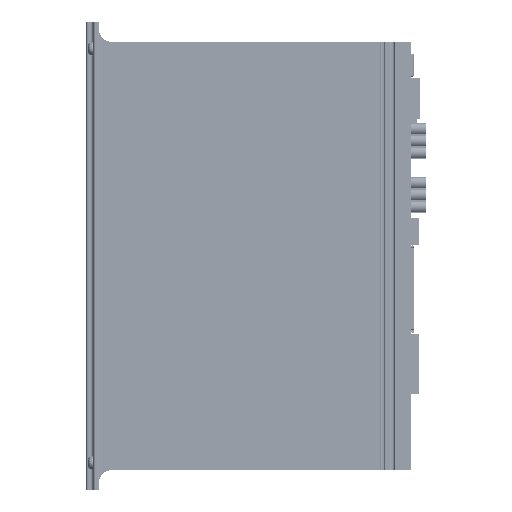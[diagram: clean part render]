
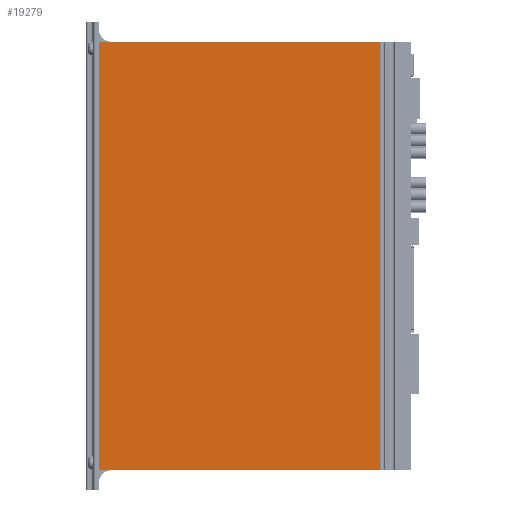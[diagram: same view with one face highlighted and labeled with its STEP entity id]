
A CAD part, front view. The second image highlights one B-rep face of the part: STEP entity #19279.
In plain terms, the highlighted planar face has unit normal (0, -1, 0) as drawn and (-1, 0, 0) by its records, which use the part's own axes.
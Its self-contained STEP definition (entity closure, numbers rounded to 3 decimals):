
#8974=DIRECTION('',(0.,-1.,0.));
#8975=VECTOR('',#8974,179.4);
#8976=CARTESIAN_POINT('',(-23.5,89.7,13.));
#8977=LINE('',#8976,#8975);
#8981=DIRECTION('',(0.,0.,-1.));
#8982=VECTOR('',#8981,118.1);
#8983=CARTESIAN_POINT('',(-23.5,89.7,131.1));
#8984=LINE('',#8983,#8982);
#8988=DIRECTION('',(0.,0.,-1.));
#8989=VECTOR('',#8988,118.1);
#8990=CARTESIAN_POINT('',(-23.5,-89.7,131.1));
#8991=LINE('',#8990,#8989);
#11291=DIRECTION('',(0.,-1.,0.));
#11292=VECTOR('',#11291,179.4);
#11293=CARTESIAN_POINT('',(-23.5,89.7,131.1));
#11294=LINE('',#11293,#11292);
#17544=CARTESIAN_POINT('',(-23.5,-89.7,131.1));
#17546=VERTEX_POINT('',#17544);
#17573=CARTESIAN_POINT('',(-23.5,89.7,131.1));
#17575=VERTEX_POINT('',#17573);
#18186=CARTESIAN_POINT('',(-23.5,89.7,13.));
#18187=CARTESIAN_POINT('',(-23.5,-89.7,13.));
#18188=VERTEX_POINT('',#18186);
#18189=VERTEX_POINT('',#18187);
#19264=CARTESIAN_POINT('',(-23.5,90.,0.));
#19265=DIRECTION('',(-1.,0.,0.));
#19266=DIRECTION('',(0.,-1.,0.));
#19267=AXIS2_PLACEMENT_3D('',#19264,#19265,#19266);
#19268=PLANE('',#19267);
#19270=ORIENTED_EDGE('',*,*,#19269,.F.);
#19272=ORIENTED_EDGE('',*,*,#19271,.F.);
#19274=ORIENTED_EDGE('',*,*,#19273,.T.);
#19276=ORIENTED_EDGE('',*,*,#19275,.T.);
#19277=EDGE_LOOP('',(#19270,#19272,#19274,#19276));
#19278=FACE_OUTER_BOUND('',#19277,.F.);
#19269=EDGE_CURVE('',#18188,#18189,#8977,.T.);
#19271=EDGE_CURVE('',#17575,#18188,#8984,.T.);
#19273=EDGE_CURVE('',#17575,#17546,#11294,.T.);
#19275=EDGE_CURVE('',#17546,#18189,#8991,.T.);
#19279=ADVANCED_FACE('',(#19278),#19268,.T.);
